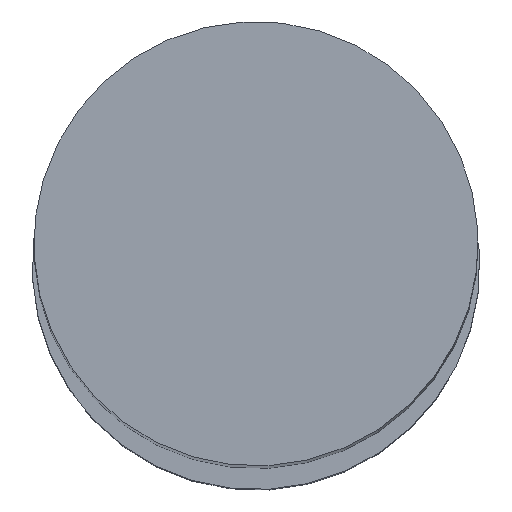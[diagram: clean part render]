
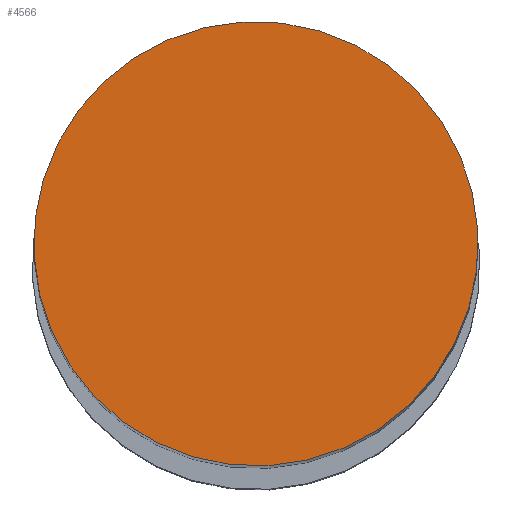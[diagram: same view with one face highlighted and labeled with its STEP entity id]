
A CAD part, top view. The second image highlights one B-rep face of the part: STEP entity #4566.
In plain terms, the highlighted planar face has unit normal (0, 0, 1).
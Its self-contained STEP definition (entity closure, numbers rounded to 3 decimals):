
#127 = CIRCLE ( 'NONE', #2730, 13.4 ) ;
#185 = EDGE_LOOP ( 'NONE', ( #2136, #1565 ) ) ;
#680 = CARTESIAN_POINT ( 'NONE',  ( -0.1, -0.066, -372.873 ) ) ;
#793 = CARTESIAN_POINT ( 'NONE',  ( -0.1, -0.066, -372.873 ) ) ;
#1026 = FACE_OUTER_BOUND ( 'NONE', #185, .T. ) ;
#1053 = DIRECTION ( 'NONE',  ( 0.55, -0.835, 0. ) ) ;
#1083 = AXIS2_PLACEMENT_3D ( 'NONE', #680, #1445, #1053 ) ;
#1342 = VERTEX_POINT ( 'NONE', #2721 ) ;
#1445 = DIRECTION ( 'NONE',  ( 0., 0., -1. ) ) ;
#1565 = ORIENTED_EDGE ( 'NONE', *, *, #4238, .F. ) ;
#1627 = EDGE_CURVE ( 'NONE', #1342, #1682, #127, .T. ) ;
#1649 = CARTESIAN_POINT ( 'NONE',  ( -7.468, 11.127, -372.873 ) ) ;
#1682 = VERTEX_POINT ( 'NONE', #1649 ) ;
#2136 = ORIENTED_EDGE ( 'NONE', *, *, #1627, .F. ) ;
#2534 = PLANE ( 'NONE',  #4740 ) ;
#2556 = DIRECTION ( 'NONE',  ( 0., 0., 1. ) ) ;
#2691 = DIRECTION ( 'NONE',  ( 0., 0., -1. ) ) ;
#2721 = CARTESIAN_POINT ( 'NONE',  ( 7.268, -11.258, -372.873 ) ) ;
#2730 = AXIS2_PLACEMENT_3D ( 'NONE', #793, #2691, #4192 ) ;
#3452 = CIRCLE ( 'NONE', #1083, 13.4 ) ;
#4063 = DIRECTION ( 'NONE',  ( -0.55, 0.835, 0. ) ) ;
#4192 = DIRECTION ( 'NONE',  ( 0.55, -0.835, 0. ) ) ;
#4238 = EDGE_CURVE ( 'NONE', #1682, #1342, #3452, .T. ) ;
#4566 = ADVANCED_FACE ( 'NONE', ( #1026 ), #2534, .T. ) ;
#4740 = AXIS2_PLACEMENT_3D ( 'NONE', #4797, #2556, #4063 ) ;
#4797 = CARTESIAN_POINT ( 'NONE',  ( -11.293, -7.434, -372.873 ) ) ;
